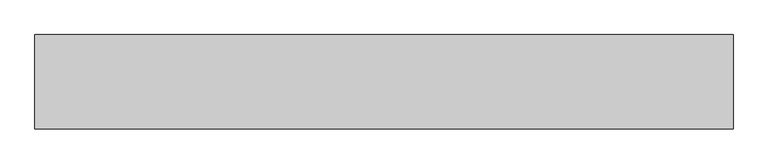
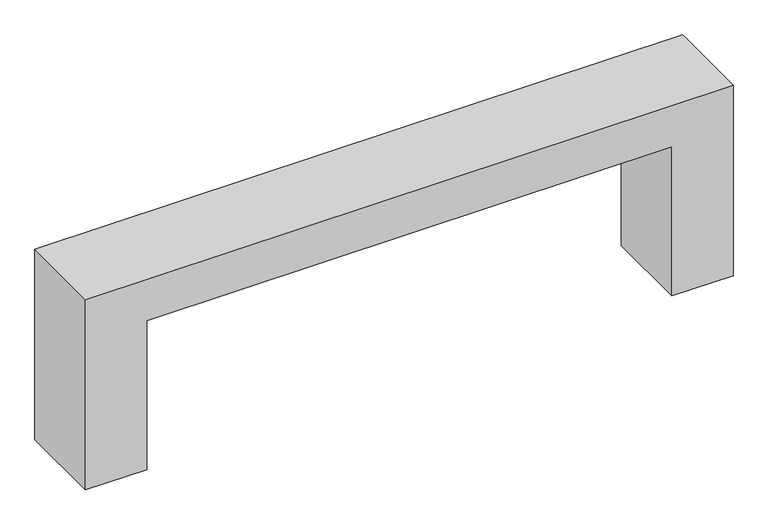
"""IFC4 building model written with IfcOpenShell, lengths in millimetres: proxy geometry, 門型 : 門型."""

from ifc_helpers import new_model, si_unit, frame, origin, place, context, project, spatial, polyline, outline, extrude, source, transform, mapped, element, save


def generic_models_72fe8b9a(model_context):
    return source(origin(), model_context, "Body", "SweptSolid", [
        extrude(outline(polyline([(4600.0, -14545.9784025), (4600.0, -29345.9784025), (0.0, -29345.9784025), (0.0, -27945.9784025), (3600.0, -27945.9784025), (3600.0, -15945.9784025), (0.0, -15945.9784025), (0.0, -14545.9784025), (4600.0, -14545.9784025)])), frame((0.0, -5550.3131013, 0.0), z_axis=(0.0, 1.0, 0.0), x_axis=(0.0, 0.0, 1.0)), (0.0, 0.0, 1.0), 2000.0),
    ])


if __name__ == "__main__":
    model = new_model("IFC4")
    model_context = context("Model", 3, world=origin())
    ifc_project = project(units=[si_unit("LENGTHUNIT", "METRE", prefix="MILLI")], contexts=[model_context])
    site = spatial("IfcSite", under=ifc_project)
    building = spatial("IfcBuilding", under=site)
    placement = place(None, origin())
    generic_models_shape = generic_models_72fe8b9a(model_context)
    element("IfcBuildingElementProxy", 1, Name="門型 : 門型", ObjectType="門型 : 門型", at=placement, inside=building, context=model_context, shape_type="MappedRepresentation", body=[
        mapped(generic_models_shape, transform((0.0, 0.0, 0.0), x_axis=(1.0, 0.0, 0.0), y_axis=(0.0, 1.0, 0.0), z_axis=(0.0, 0.0, 1.0))),
    ])
    save(model, "model.ifc")
